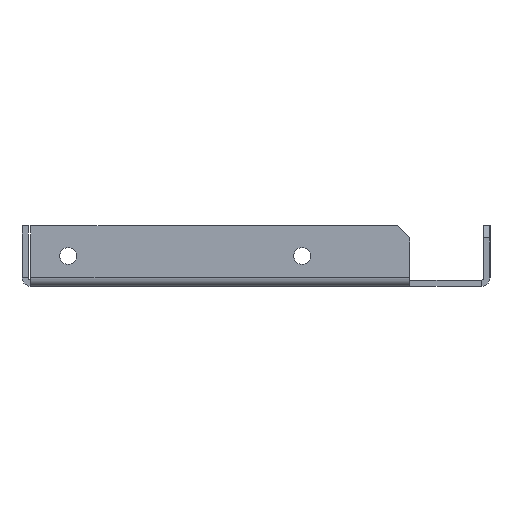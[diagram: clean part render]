
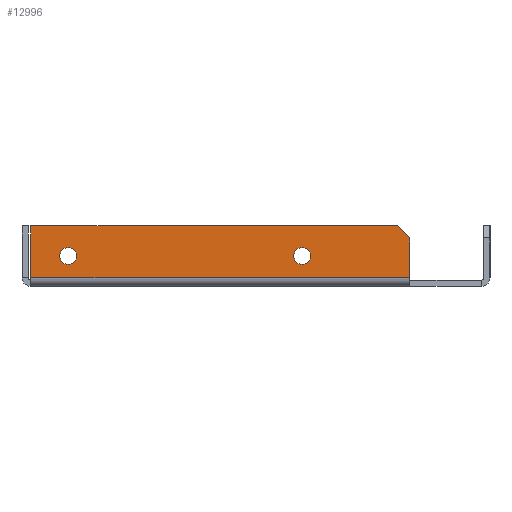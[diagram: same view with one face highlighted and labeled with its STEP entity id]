
A CAD part, left-side view. The second image highlights one B-rep face of the part: STEP entity #12996.
In plain terms, the highlighted planar face has unit normal (-1, 0, 0).
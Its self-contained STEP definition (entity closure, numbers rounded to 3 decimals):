
#5491=CARTESIAN_POINT(' ',(-234.5,-38.25,10.5));
#5492=VERTEX_POINT(' ',#5491);
#5506=CARTESIAN_POINT(' ',(-234.5,-38.25,10.5));
#5511=DIRECTION(' ',(0.,0.,-1.));
#5516=VECTOR(' ',#5511,1.);
#5521=LINE('',#5506,#5516);
#5526=CARTESIAN_POINT(' ',(-234.5,-38.25,0.6));
#5527=VERTEX_POINT(' ',#5526);
#5531=EDGE_CURVE(' ',#5492,#5527,#5521,.T.);
#9446=CARTESIAN_POINT(' ',(-234.5,-38.25,0.6));
#9451=DIRECTION(' ',(0.,1.,0.));
#9456=VECTOR(' ',#9451,1.);
#9461=LINE('',#9446,#9456);
#9466=CARTESIAN_POINT(' ',(-234.5,56.043,0.6));
#9467=VERTEX_POINT(' ',#9466);
#9471=EDGE_CURVE(' ',#5527,#9467,#9461,.T.);
#12611=CARTESIAN_POINT(' ',(-234.5,-38.25,10.5));
#12616=DIRECTION(' ',(0.,0.707,0.707));
#12621=VECTOR(' ',#12616,1.);
#12626=LINE('',#12611,#12621);
#12631=CARTESIAN_POINT(' ',(-234.5,-35.25,13.5));
#12632=VERTEX_POINT(' ',#12631);
#12636=EDGE_CURVE(' ',#5492,#12632,#12626,.T.);
#12701=DIRECTION(' ',(-1.,-0.,0.));
#12706=CARTESIAN_POINT(' ',(-234.5,-38.25,13.5));
#12711=DIRECTION(' ',(-0.,1.,0.));
#12716=AXIS2_PLACEMENT_3D(' ',#12706,#12701,#12711);
#12721=PLANE('NONE',#12716);
#12726=ORIENTED_EDGE(' ',*,*,#5531,.F.);
#12731=ORIENTED_EDGE(' ',*,*,#12636,.T.);
#12736=CARTESIAN_POINT(' ',(-234.5,-35.25,13.5));
#12741=DIRECTION(' ',(0.,1.,0.));
#12746=VECTOR(' ',#12741,1.);
#12751=LINE('',#12736,#12746);
#12756=CARTESIAN_POINT(' ',(-234.5,56.043,13.5));
#12757=VERTEX_POINT(' ',#12756);
#12761=EDGE_CURVE(' ',#12632,#12757,#12751,.T.);
#12766=ORIENTED_EDGE(' ',*,*,#12761,.T.);
#12771=CARTESIAN_POINT(' ',(-234.5,56.043,0.6));
#12776=DIRECTION(' ',(0.,0.,1.));
#12781=VECTOR(' ',#12776,1.);
#12786=LINE('',#12771,#12781);
#12791=EDGE_CURVE(' ',#9467,#12757,#12786,.T.);
#12796=ORIENTED_EDGE(' ',*,*,#12791,.F.);
#12801=ORIENTED_EDGE(' ',*,*,#9471,.F.);
#12806=EDGE_LOOP(' ',(#12726,#12731,#12766,#12796,#12801));
#12811=FACE_OUTER_BOUND(' ',#12806,.T.);
#12816=CARTESIAN_POINT(' ',(-234.5,-11.5,6.));
#12821=DIRECTION(' ',(-1.,-0.,0.));
#12826=DIRECTION(' ',(0.,0.,1.));
#12831=AXIS2_PLACEMENT_3D(' ',#12816,#12821,#12826);
#12836=CIRCLE('',#12831,2.1);
#12841=CARTESIAN_POINT(' ',(-234.5,-11.5,8.1));
#12842=VERTEX_POINT(' ',#12841);
#12846=CARTESIAN_POINT(' ',(-234.5,-11.5,3.9));
#12847=VERTEX_POINT(' ',#12846);
#12851=EDGE_CURVE(' ',#12842,#12847,#12836,.T.);
#12856=ORIENTED_EDGE(' ',*,*,#12851,.F.);
#12861=CARTESIAN_POINT(' ',(-234.5,-11.5,6.));
#12866=DIRECTION(' ',(-1.,0.,0.));
#12871=DIRECTION(' ',(0.,0.,-1.));
#12876=AXIS2_PLACEMENT_3D(' ',#12861,#12866,#12871);
#12881=CIRCLE('',#12876,2.1);
#12886=EDGE_CURVE(' ',#12847,#12842,#12881,.T.);
#12891=ORIENTED_EDGE(' ',*,*,#12886,.F.);
#12896=EDGE_LOOP(' ',(#12856,#12891));
#12901=FACE_BOUND(' ',#12896,.T.);
#12906=CARTESIAN_POINT(' ',(-234.5,46.75,6.));
#12911=DIRECTION(' ',(-1.,-0.,0.));
#12916=DIRECTION(' ',(0.,0.,1.));
#12921=AXIS2_PLACEMENT_3D(' ',#12906,#12911,#12916);
#12926=CIRCLE('',#12921,2.1);
#12931=CARTESIAN_POINT(' ',(-234.5,46.75,8.1));
#12932=VERTEX_POINT(' ',#12931);
#12936=CARTESIAN_POINT(' ',(-234.5,46.75,3.9));
#12937=VERTEX_POINT(' ',#12936);
#12941=EDGE_CURVE(' ',#12932,#12937,#12926,.T.);
#12946=ORIENTED_EDGE(' ',*,*,#12941,.F.);
#12951=CARTESIAN_POINT(' ',(-234.5,46.75,6.));
#12956=DIRECTION(' ',(-1.,0.,0.));
#12961=DIRECTION(' ',(0.,0.,-1.));
#12966=AXIS2_PLACEMENT_3D(' ',#12951,#12956,#12961);
#12971=CIRCLE('',#12966,2.1);
#12976=EDGE_CURVE(' ',#12937,#12932,#12971,.T.);
#12981=ORIENTED_EDGE(' ',*,*,#12976,.F.);
#12986=EDGE_LOOP(' ',(#12946,#12981));
#12991=FACE_BOUND(' ',#12986,.T.);
#12996=ADVANCED_FACE('NONE',(#12811,#12901,#12991),#12721,.T.);
